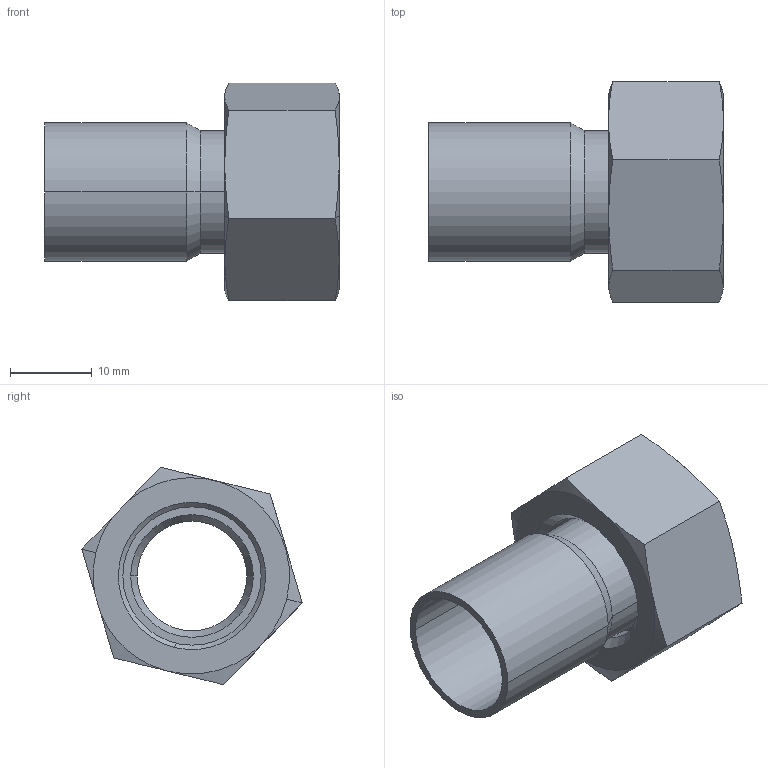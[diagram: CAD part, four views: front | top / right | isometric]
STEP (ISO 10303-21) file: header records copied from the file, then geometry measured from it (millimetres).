
FILE_DESCRIPTION((''),'2;1');
FILE_NAME('G:\SANHA-TERNAT\Technik\Public\Bouwmaten\z-maattekeningen 3D\5000\5359G\15359G1512.stp','2007-05-24T14:42:57',('vdvijverd'),(''),'Autodesk Inventor 8','Autodesk Inventor 8','');
FILE_SCHEMA(('AUTOMOTIVE_DESIGN { 1 0 10303 214 1 1 1 1 }'));
Length unit declared in the file: millimetre
Products named in the file (4): 15359G1512; 5359G1512; BB1A006_12; centel_12
Assembly tree (3 placements, depth 2):
  15359G1512
    5359G1512
    BB1A006_12
    centel_12
Bounding box: 36 x 26.93 x 26.6 mm (x, y, z)
Volume: 4743.8 mm3; surface area: 5670.9 mm2
Topology: 3 solids, 3 shells, 58 faces, 139 edges, 89 vertices
Faces by surface type: cone 18, cylinder 16, plane 14, torus 6, bspline 4
Entity records: 1943 total; most frequent: CARTESIAN_POINT 477, DIRECTION 316, ORIENTED_EDGE 278, EDGE_CURVE 139, AXIS2_PLACEMENT_3D 138, VERTEX_POINT 89, CIRCLE 77, EDGE_LOOP 66
